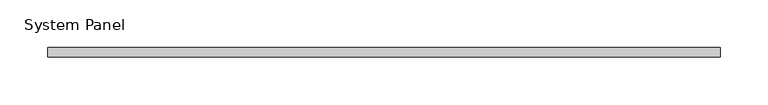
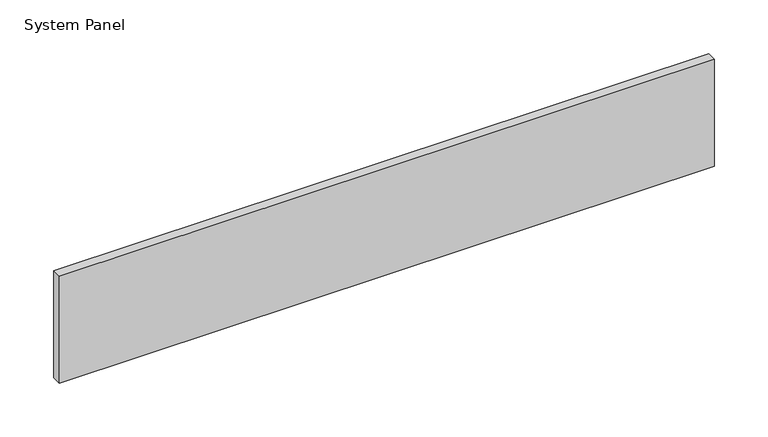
"""IFC4 building model written with IfcOpenShell, lengths in millimetres: plate geometry, System Panel : VACÍO."""

import ifcopenshell
import ifcopenshell.guid

model = None  # the IFC model being written
_history = None  # IfcOwnerHistory: only IFC2X3 demands one
_inside = {}  # id of a spatial element -> (the spatial element, [elements in it])
_under = {}  # id of a project, library or spatial element -> (it, [spatial elements below it])
_declared = {}  # id of a project -> (the project, [libraries it declares])
_typed = {}  # id of a type object -> (the type object, [elements of that type])
_made_of = {}  # id of a material, layer set ... -> (it, [elements and type objects made of it])


def new_model(schema):
    """Start an empty IFC model of exactly this schema.

    Asked for "IFC4X3", IfcOpenShell would pick the latest addendum, in which some entities
    have other attributes; the version numbers below select the first issue.
    IFC2X3 requires an IfcOwnerHistory on every rooted entity: one is made here for all.
    """
    global model, _history
    if schema == "IFC4X3":
        model = ifcopenshell.file(schema_version=(4, 3, 0, 0))
    else:
        model = ifcopenshell.file(schema=schema)
    _inside.clear()
    _under.clear()
    _declared.clear()
    _typed.clear()
    _made_of.clear()
    _history = None
    if model.schema == "IFC2X3":
        org = make("IfcOrganization", Name="unknown")
        user = make(
            "IfcPersonAndOrganization",
            ThePerson=make("IfcPerson", FamilyName="unknown"),
            TheOrganization=org,
        )
        app = make(
            "IfcApplication",
            ApplicationDeveloper=org,
            Version="unknown",
            ApplicationFullName="unknown",
            ApplicationIdentifier="unknown",
        )
        _history = make(
            "IfcOwnerHistory",
            OwningUser=user,
            OwningApplication=app,
            ChangeAction="ADDED",
            CreationDate=0,
        )
    return model


def make(cls, **values):
    """One entity of the class cls with the attributes given. An attribute that is None is left unset."""
    return model.create_entity(
        cls, **{name: value for name, value in values.items() if value is not None}
    )


def rooted(cls, **values):
    """An entity with a GlobalId (a new one), such as an element, a storey or a relation."""
    return make(cls, GlobalId=ifcopenshell.guid.new(), OwnerHistory=_history, **values)


def si_unit(unit_type, name, prefix=None):
    """IfcSIUnit, for example si_unit("LENGTHUNIT", "METRE", prefix="MILLI")."""
    return make("IfcSIUnit", UnitType=unit_type, Prefix=prefix, Name=name)


def assignment(units):
    """IfcUnitAssignment: the units of a project."""
    return None if units is None else make("IfcUnitAssignment", Units=units)


def point(xyz):
    """IfcCartesianPoint."""
    return None if xyz is None else make("IfcCartesianPoint", Coordinates=xyz)


def direction(xyz):
    """IfcDirection."""
    return None if xyz is None else make("IfcDirection", DirectionRatios=xyz)


def frame(location, z_axis=None, x_axis=None):
    """IfcAxis2Placement3D, a coordinate frame: its origin and axes. An axis left out is left unset."""
    return make(
        "IfcAxis2Placement3D",
        Location=point(location),
        Axis=direction(z_axis),
        RefDirection=direction(x_axis),
    )


def origin():
    """The frame at (0, 0, 0) with its axes left unset."""
    return frame((0.0, 0.0, 0.0))


def origin_with_axes():
    """The frame at (0, 0, 0) with the z axis (0, 0, 1) and the x axis (1, 0, 0) written out."""
    return frame((0.0, 0.0, 0.0), z_axis=(0.0, 0.0, 1.0), x_axis=(1.0, 0.0, 0.0))


def place(relative_to, where):
    """IfcLocalPlacement: puts the frame where relative to a parent placement (None: the world)."""
    return make(
        "IfcLocalPlacement", PlacementRelTo=relative_to, RelativePlacement=where
    )


def context(
    kind, dimensions, precision=None, world=None, true_north=None, identifier=None
):
    """IfcGeometricRepresentationContext, for example the 3D "Model" context."""
    return make(
        "IfcGeometricRepresentationContext",
        ContextIdentifier=identifier,
        ContextType=kind,
        CoordinateSpaceDimension=dimensions,
        Precision=precision,
        WorldCoordinateSystem=world,
        TrueNorth=true_north,
    )


def project(units=None, contexts=None):
    """IfcProject with its units and contexts."""
    return rooted(
        "IfcProject",
        Name="project",
        RepresentationContexts=contexts,
        UnitsInContext=assignment(units),
    )


def spatial(cls, under=None, at=None, **own):
    """A site, building, storey or space (cls), placed at a placement, below another one or the project."""
    s = rooted(cls, ObjectPlacement=at, **own)
    if under is not None:
        _under.setdefault(under.id(), (under, []))[1].append(s)
    return s


def polyline(points):
    """IfcPolyline through the points."""
    return make("IfcPolyline", Points=[point(p) for p in points])


def outline(outer, holes=None, kind="AREA"):
    """IfcArbitraryClosedProfileDef: a profile drawn as a closed curve; with holes, ...WithVoids."""
    if holes is None:
        return make("IfcArbitraryClosedProfileDef", ProfileType=kind, OuterCurve=outer)
    return make(
        "IfcArbitraryProfileDefWithVoids",
        ProfileType=kind,
        OuterCurve=outer,
        InnerCurves=holes,
    )


def extrude(swept, where, along, depth):
    """IfcExtrudedAreaSolid: the profile swept, set in the frame where, extruded along a direction by depth."""
    return make(
        "IfcExtrudedAreaSolid",
        SweptArea=swept,
        Position=where,
        ExtrudedDirection=direction(along),
        Depth=depth,
    )


def shape(context_of_items, identifier, shape_type, items):
    """IfcShapeRepresentation: the items that make up one representation, for example the "Body"."""
    return make(
        "IfcShapeRepresentation",
        ContextOfItems=context_of_items,
        RepresentationIdentifier=identifier,
        RepresentationType=shape_type,
        Items=items,
    )


def source(mapping_origin, context_of_items, identifier, shape_type, items):
    """IfcRepresentationMap: a shape defined once, which mapped items show again and again."""
    return make(
        "IfcRepresentationMap",
        MappingOrigin=mapping_origin,
        MappedRepresentation=shape(context_of_items, identifier, shape_type, items),
    )


def transform(
    local_origin,
    x_axis=None,
    y_axis=None,
    z_axis=None,
    scale=None,
    scale2=None,
    scale3=None,
    uniform=True,
):
    """IfcCartesianTransformationOperator3D, or its non-uniform kind. x_axis, y_axis, z_axis: its Axis1, 2, 3."""
    if uniform:
        return make(
            "IfcCartesianTransformationOperator3D",
            Axis1=direction(x_axis),
            Axis2=direction(y_axis),
            LocalOrigin=point(local_origin),
            Scale=scale,
            Axis3=direction(z_axis),
        )
    return make(
        "IfcCartesianTransformationOperator3DnonUniform",
        Axis1=direction(x_axis),
        Axis2=direction(y_axis),
        LocalOrigin=point(local_origin),
        Scale=scale,
        Axis3=direction(z_axis),
        Scale2=scale2,
        Scale3=scale3,
    )


def mapped(mapping_source, mapping_target):
    """IfcMappedItem: shows the shape of a source again, moved by a transform."""
    return make(
        "IfcMappedItem", MappingSource=mapping_source, MappingTarget=mapping_target
    )


def made_of(thing, what):
    """Note that an element or type object is made of a material, layer set ...; save() writes the relation."""
    if what is not None:
        _made_of.setdefault(what.id(), (what, []))[1].append(thing)
    return thing


def element(
    cls,
    number,
    at=None,
    inside=None,
    cuts=None,
    type_object=None,
    material=None,
    context=None,
    identifier="Body",
    shape_type=None,
    held_by="IfcProductDefinitionShape",
    body=None,
    shapes=None,
    **own,
):
    """One element of the class cls, such as IfcWall. Its Tag is "e" and its number.

    at: its placement. inside: the storey or other place that contains it. cuts: it is an
    opening in that element (IfcRelVoidsElement). A single representation is given by context,
    identifier, shape_type and body (its items); several are given by shapes. held_by: the class
    of the entity that holds the representations. save() writes the other relations.
    """
    e = rooted(cls, Tag="e%d" % number, ObjectPlacement=at, **own)
    if body is not None:
        shapes = [shape(context, identifier, shape_type, body)]
    if shapes is not None:
        e.Representation = make(held_by, Representations=shapes)
    if inside is not None:
        _inside.setdefault(inside.id(), (inside, []))[1].append(e)
    if cuts is not None:
        rooted(
            "IfcRelVoidsElement", RelatingBuildingElement=cuts, RelatedOpeningElement=e
        )
    if type_object is not None:
        _typed.setdefault(type_object.id(), (type_object, []))[1].append(e)
    return made_of(e, material)


def aggregate(whole, parts):
    """IfcRelAggregates: a whole, such as a stair, and the parts it consists of."""
    return rooted("IfcRelAggregates", RelatingObject=whole, RelatedObjects=parts)


def save(model, path):
    """Write the relations noted so far, then the file.

    IfcRelAggregates (storeys below a building ...), IfcRelContainedInSpatialStructure (elements
    in a storey), IfcRelDefinesByType, IfcRelAssociatesMaterial and IfcRelDeclares: one each for
    every whole, place, type object, material and project.
    """
    for whole, parts in _under.values():
        aggregate(whole, parts)
    for where, things in _inside.values():
        rooted(
            "IfcRelContainedInSpatialStructure",
            RelatedElements=things,
            RelatingStructure=where,
        )
    for kind, things in _typed.values():
        rooted("IfcRelDefinesByType", RelatedObjects=things, RelatingType=kind)
    for what, things in _made_of.values():
        rooted("IfcRelAssociatesMaterial", RelatedObjects=things, RelatingMaterial=what)
    for by, libraries in _declared.values():
        rooted("IfcRelDeclares", RelatingContext=by, RelatedDefinitions=libraries)
    model.write(path)


def system_panel_e062d6e0(model_context):
    return source(origin(), model_context, "Body", "SweptSolid", [
        extrude(outline(polyline([(351.3774187, -5.0), (-351.3774187, -5.0), (-351.3774187, 5.0), (351.3774187, 5.0), (351.3774187, -5.0)])), origin_with_axes(), (0.0, 0.0, 1.0), 121.5),
    ])


if __name__ == "__main__":
    model = new_model("IFC4")
    model_context = context("Model", 3, world=origin())
    ifc_project = project(units=[si_unit("LENGTHUNIT", "METRE", prefix="MILLI")], contexts=[model_context])
    site = spatial("IfcSite", under=ifc_project)
    building = spatial("IfcBuilding", under=site)
    placement = place(None, origin())
    system_panel_shape = system_panel_e062d6e0(model_context)
    element("IfcPlate", 1, ObjectType="System Panel : VACÍO", at=placement, inside=building, context=model_context, shape_type="MappedRepresentation", body=[
        mapped(system_panel_shape, transform((0.0, 0.0, 0.0), x_axis=(1.0, 0.0, 0.0), y_axis=(0.0, 1.0, 0.0), z_axis=(0.0, 0.0, 1.0))),
    ])
    save(model, "model.ifc")
